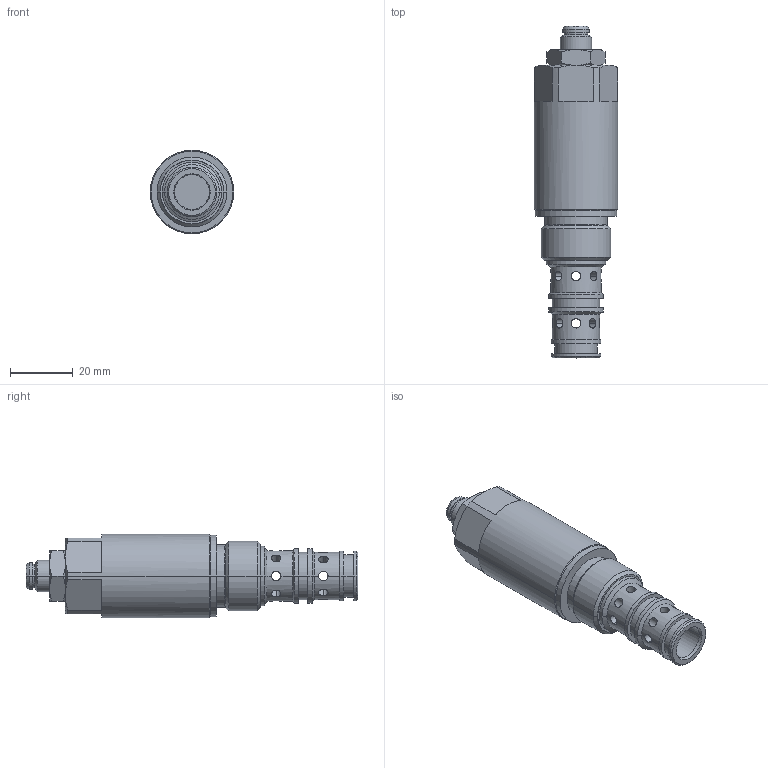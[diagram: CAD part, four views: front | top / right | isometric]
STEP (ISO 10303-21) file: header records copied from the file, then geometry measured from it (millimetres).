
FILE_DESCRIPTION((''),'2;1');
FILE_NAME('SF32A_B3_H10S_47000243','2024-04-11T10:51:39',('PoolNonAdmin70327204'),(''),'CREO PARAMETRIC BY PTC INC, 2023424','CREO PARAMETRIC BY PTC INC, 2023424','');
FILE_SCHEMA(('AUTOMOTIVE_DESIGN { 1 0 10303 214 1 1 1 1 }'));
Length unit declared in the file: millimetre
Products named in the file (1): SF32A_B3_H10S_47000243
Bounding box: 26.5 x 105.5 x 26.5 mm (x, y, z)
Volume: 36749.9 mm3; surface area: 10311.6 mm2
Topology: 1 solids, 3 shells, 150 faces, 366 edges, 213 vertices
Faces by surface type: cylinder 70, cone 43, plane 37
Entity records: 8289 total; most frequent: CARTESIAN_POINT 3066, ORIENTED_EDGE 724, DIRECTION 677, PRESENTATION_STYLE_ASSIGNMENT 369, STYLED_ITEM 369, CURVE_STYLE 366, EDGE_CURVE 366, AXIS2_PLACEMENT_3D 268
